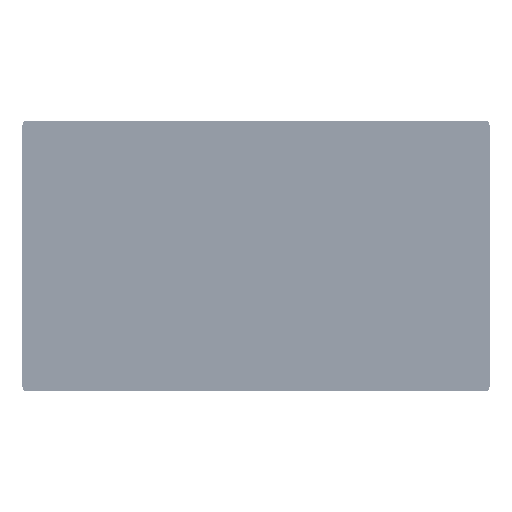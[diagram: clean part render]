
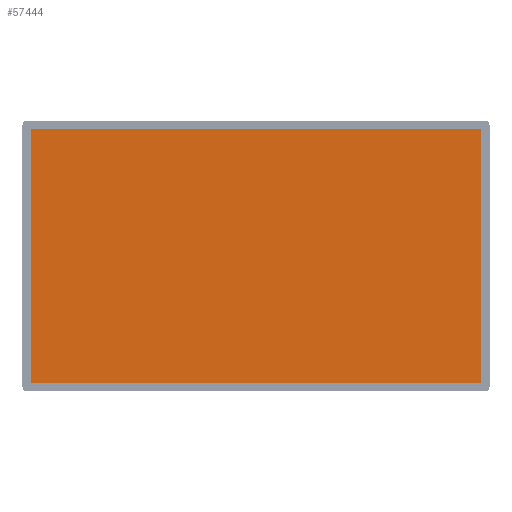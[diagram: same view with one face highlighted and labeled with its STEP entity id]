
A CAD part, top view. The second image highlights one B-rep face of the part: STEP entity #57444.
In plain terms, the highlighted planar face has unit normal (0, 0, 1).
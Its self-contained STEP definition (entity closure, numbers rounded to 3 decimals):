
#57444 = ADVANCED_FACE ( 'NONE', ( #683661 ), #601041, .F. ) ;
#107892 = EDGE_CURVE ( 'NONE', #675082, #763037, #294466, .T. ) ;
#169989 = EDGE_CURVE ( 'NONE', #932811, #675082, #315057, .T. ) ;
#173332 = VERTEX_POINT ( 'NONE', #1003348 ) ;
#294466 = LINE ( 'NONE', #630541, #347752 ) ;
#315057 = LINE ( 'NONE', #1064948, #703014 ) ;
#347752 = VECTOR ( 'NONE', #382477, 1000. ) ;
#382477 = DIRECTION ( 'NONE',  ( 0., 1., 0. ) ) ;
#393324 = CARTESIAN_POINT ( 'NONE',  ( 714.24, 401.76, 6.6 ) ) ;
#431749 = CARTESIAN_POINT ( 'NONE',  ( -714.24, -401.76, 6.6 ) ) ;
#438258 = AXIS2_PLACEMENT_3D ( 'NONE', #815279, #556266, #628034 ) ;
#475957 = DIRECTION ( 'NONE',  ( 1., 0., 0. ) ) ;
#478384 = CARTESIAN_POINT ( 'NONE',  ( -714.24, 401.76, 6.6 ) ) ;
#492940 = ORIENTED_EDGE ( 'NONE', *, *, #169989, .F. ) ;
#501506 = VECTOR ( 'NONE', #633895, 1000. ) ;
#518088 = ORIENTED_EDGE ( 'NONE', *, *, #107892, .F. ) ;
#556266 = DIRECTION ( 'NONE',  ( 0., 0., -1. ) ) ;
#601041 = PLANE ( 'NONE',  #438258 ) ;
#628034 = DIRECTION ( 'NONE',  ( -1., 0., 0. ) ) ;
#630541 = CARTESIAN_POINT ( 'NONE',  ( -714.24, 401.76, 6.6 ) ) ;
#633895 = DIRECTION ( 'NONE',  ( 0., -1., 0. ) ) ;
#675082 = VERTEX_POINT ( 'NONE', #431749 ) ;
#683661 = FACE_OUTER_BOUND ( 'NONE', #913357, .T. ) ;
#703014 = VECTOR ( 'NONE', #739247, 1000. ) ;
#721926 = CARTESIAN_POINT ( 'NONE',  ( 714.24, -401.76, 6.6 ) ) ;
#738262 = EDGE_CURVE ( 'NONE', #763037, #173332, #801400, .T. ) ;
#739247 = DIRECTION ( 'NONE',  ( -1., 0., 0. ) ) ;
#753550 = EDGE_CURVE ( 'NONE', #173332, #932811, #898363, .T. ) ;
#763037 = VERTEX_POINT ( 'NONE', #478384 ) ;
#771426 = ORIENTED_EDGE ( 'NONE', *, *, #738262, .F. ) ;
#773212 = VECTOR ( 'NONE', #475957, 1000. ) ;
#801400 = LINE ( 'NONE', #393324, #773212 ) ;
#815279 = CARTESIAN_POINT ( 'NONE',  ( 0., -1.136, 6.6 ) ) ;
#865268 = ORIENTED_EDGE ( 'NONE', *, *, #753550, .F. ) ;
#891770 = CARTESIAN_POINT ( 'NONE',  ( 714.24, -401.76, 6.6 ) ) ;
#898363 = LINE ( 'NONE', #721926, #501506 ) ;
#913357 = EDGE_LOOP ( 'NONE', ( #492940, #865268, #771426, #518088 ) ) ;
#932811 = VERTEX_POINT ( 'NONE', #891770 ) ;
#1003348 = CARTESIAN_POINT ( 'NONE',  ( 714.24, 401.76, 6.6 ) ) ;
#1064948 = CARTESIAN_POINT ( 'NONE',  ( -714.24, -401.76, 6.6 ) ) ;
